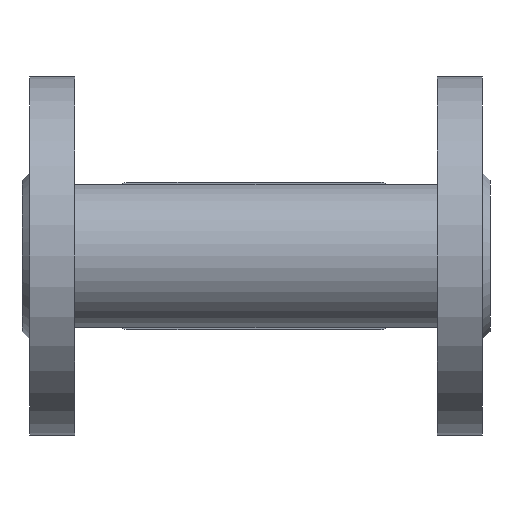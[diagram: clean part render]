
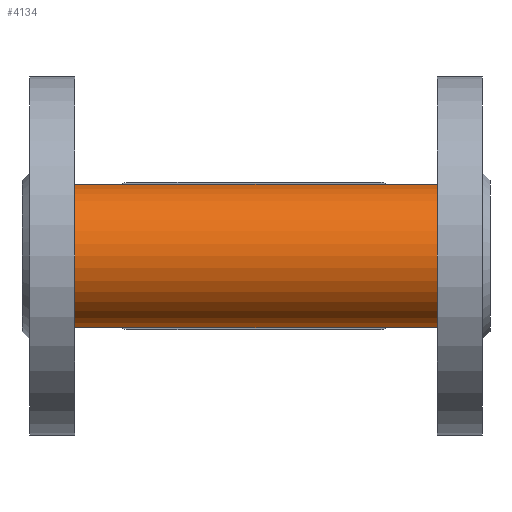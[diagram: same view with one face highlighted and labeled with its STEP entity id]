
A CAD part, front view. The second image highlights one B-rep face of the part: STEP entity #4134.
In plain terms, the highlighted cylindrical face has radius 19 mm (diameter 38 mm), a full revolution.
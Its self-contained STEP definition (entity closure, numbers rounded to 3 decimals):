
#1223=ELLIPSE('',#30045,26.87,19.);
#1224=ELLIPSE('',#30046,26.87,19.);
#1225=ELLIPSE('',#30047,26.87,19.);
#1226=ELLIPSE('',#30048,26.87,19.);
#1237=CYLINDRICAL_SURFACE('',#30051,19.);
#2634=FACE_BOUND('',#8094,.T.);
#2635=FACE_BOUND('',#8095,.T.);
#2636=FACE_BOUND('',#8096,.T.);
#4134=ADVANCED_FACE('',(#2634,#2635,#2636),#1237,.T.);
#8094=EDGE_LOOP('',(#11999,#12000,#12001,#12002,#12003,#12004));
#8095=EDGE_LOOP('',(#12005));
#8096=EDGE_LOOP('',(#12006));
#10770=CIRCLE('',#30049,19.);
#10771=CIRCLE('',#30050,19.);
#11999=ORIENTED_EDGE('',*,*,#22314,.T.);
#12000=ORIENTED_EDGE('',*,*,#22315,.T.);
#12001=ORIENTED_EDGE('',*,*,#22316,.T.);
#12002=ORIENTED_EDGE('',*,*,#22317,.T.);
#12003=ORIENTED_EDGE('',*,*,#22318,.T.);
#12004=ORIENTED_EDGE('',*,*,#22319,.T.);
#12005=ORIENTED_EDGE('',*,*,#22320,.F.);
#12006=ORIENTED_EDGE('',*,*,#22321,.F.);
#19611=VERTEX_POINT('',#40656);
#19612=VERTEX_POINT('',#40657);
#19613=VERTEX_POINT('',#40659);
#19614=VERTEX_POINT('',#40661);
#19615=VERTEX_POINT('',#40663);
#19616=VERTEX_POINT('',#40665);
#19617=VERTEX_POINT('',#40668);
#19618=VERTEX_POINT('',#40670);
#22314=EDGE_CURVE('',#19611,#19612,#1223,.T.);
#22315=EDGE_CURVE('',#19612,#19613,#1224,.T.);
#22316=EDGE_CURVE('',#19613,#19614,#26117,.T.);
#22317=EDGE_CURVE('',#19614,#19615,#1225,.T.);
#22318=EDGE_CURVE('',#19615,#19616,#1226,.T.);
#22319=EDGE_CURVE('',#19616,#19611,#26118,.T.);
#22320=EDGE_CURVE('',#19617,#19617,#10770,.T.);
#22321=EDGE_CURVE('',#19618,#19618,#10771,.T.);
#26117=LINE('',#40660,#27959);
#26118=LINE('',#40666,#27960);
#27959=VECTOR('',#32901,1.);
#27960=VECTOR('',#32906,1.);
#30045=AXIS2_PLACEMENT_3D('',#40655,#32897,#32898);
#30046=AXIS2_PLACEMENT_3D('',#40658,#32899,#32900);
#30047=AXIS2_PLACEMENT_3D('',#40662,#32902,#32903);
#30048=AXIS2_PLACEMENT_3D('',#40664,#32904,#32905);
#30049=AXIS2_PLACEMENT_3D('',#40667,#32907,#32908);
#30050=AXIS2_PLACEMENT_3D('',#40669,#32909,#32910);
#30051=AXIS2_PLACEMENT_3D('',#40671,#32911,#32912);
#32897=DIRECTION('',(-0.707,-0.707,0.));
#32898=DIRECTION('',(-0.707,0.707,0.));
#32899=DIRECTION('',(-0.707,-0.707,0.));
#32900=DIRECTION('',(-0.707,0.707,0.));
#32901=DIRECTION('',(1.,0.,0.));
#32902=DIRECTION('',(0.707,-0.707,0.));
#32903=DIRECTION('',(-0.707,-0.707,0.));
#32904=DIRECTION('',(0.707,-0.707,0.));
#32905=DIRECTION('',(-0.707,-0.707,0.));
#32906=DIRECTION('',(-1.,0.,0.));
#32907=DIRECTION('',(1.,0.,0.));
#32908=DIRECTION('',(0.,0.,1.));
#32909=DIRECTION('',(-1.,0.,0.));
#32910=DIRECTION('',(0.,0.,-1.));
#32911=DIRECTION('',(-1.,0.,0.));
#32912=DIRECTION('',(0.,0.,1.));
#40655=CARTESIAN_POINT('',(35.,-12.49,960.5));
#40656=CARTESIAN_POINT('',(20.,2.51,972.162));
#40657=CARTESIAN_POINT('',(16.,6.51,960.5));
#40658=CARTESIAN_POINT('',(35.,-12.49,960.5));
#40659=CARTESIAN_POINT('',(20.,2.51,948.838));
#40660=CARTESIAN_POINT('',(76.,2.51,948.838));
#40661=CARTESIAN_POINT('',(70.,2.51,948.838));
#40662=CARTESIAN_POINT('',(55.,-12.49,960.5));
#40663=CARTESIAN_POINT('',(74.,6.51,960.5));
#40664=CARTESIAN_POINT('',(55.,-12.49,960.5));
#40665=CARTESIAN_POINT('',(70.,2.51,972.162));
#40666=CARTESIAN_POINT('',(76.,2.51,972.162));
#40667=CARTESIAN_POINT('',(93.,-12.49,960.5));
#40668=CARTESIAN_POINT('',(93.,-12.49,979.5));
#40669=CARTESIAN_POINT('',(-3.,-12.49,960.5));
#40670=CARTESIAN_POINT('',(-3.,-12.49,941.5));
#40671=CARTESIAN_POINT('',(76.,-12.49,960.5));
